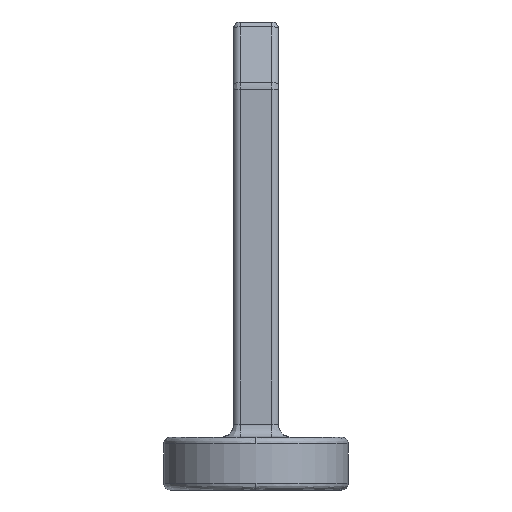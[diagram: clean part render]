
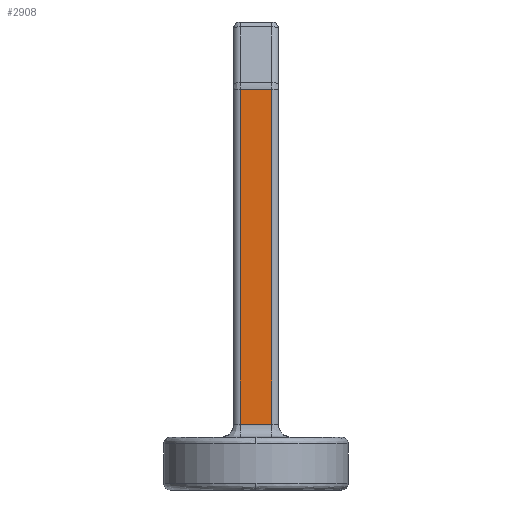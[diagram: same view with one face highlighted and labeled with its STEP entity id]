
A CAD part, left-side view. The second image highlights one B-rep face of the part: STEP entity #2908.
In plain terms, the highlighted planar face has unit normal (-1, 0, 0).
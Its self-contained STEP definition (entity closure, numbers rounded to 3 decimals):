
#61 = CARTESIAN_POINT ( 'NONE',  ( -9.2, 8.2, 30.385 ) ) ;
#113 = VERTEX_POINT ( 'NONE', #61 ) ;
#225 = DIRECTION ( 'NONE',  ( 0., 0., -1. ) ) ;
#595 = DIRECTION ( 'NONE',  ( 0., 0., 1. ) ) ;
#609 = AXIS2_PLACEMENT_3D ( 'NONE', #3986, #4444, #1716 ) ;
#861 = PLANE ( 'NONE',  #609 ) ;
#966 = EDGE_CURVE ( 'NONE', #3873, #5196, #3679, .T. ) ;
#1250 = VECTOR ( 'NONE', #595, 1000. ) ;
#1305 = EDGE_LOOP ( 'NONE', ( #3259, #5085, #4346, #2647 ) ) ;
#1323 = VECTOR ( 'NONE', #2422, 1000. ) ;
#1716 = DIRECTION ( 'NONE',  ( 0., 0., -1. ) ) ;
#2200 = EDGE_CURVE ( 'NONE', #4986, #5196, #2839, .T. ) ;
#2288 = CARTESIAN_POINT ( 'NONE',  ( -9.2, 5.3, 5. ) ) ;
#2324 = CARTESIAN_POINT ( 'NONE',  ( -9.2, 8.2, 35.5 ) ) ;
#2401 = CARTESIAN_POINT ( 'NONE',  ( -9.2, 5.3, 30.385 ) ) ;
#2422 = DIRECTION ( 'NONE',  ( 0., -1., 0. ) ) ;
#2476 = VECTOR ( 'NONE', #225, 1000. ) ;
#2519 = DIRECTION ( 'NONE',  ( 0., -1., 0. ) ) ;
#2551 = EDGE_CURVE ( 'NONE', #113, #4986, #5707, .T. ) ;
#2647 = ORIENTED_EDGE ( 'NONE', *, *, #3140, .F. ) ;
#2839 = LINE ( 'NONE', #3438, #2476 ) ;
#2908 = ADVANCED_FACE ( 'NONE', ( #4135 ), #861, .F. ) ;
#2968 = CARTESIAN_POINT ( 'NONE',  ( -9.2, 5.8, 30.385 ) ) ;
#3140 = EDGE_CURVE ( 'NONE', #3873, #113, #5581, .T. ) ;
#3177 = VECTOR ( 'NONE', #2519, 1000. ) ;
#3259 = ORIENTED_EDGE ( 'NONE', *, *, #966, .T. ) ;
#3438 = CARTESIAN_POINT ( 'NONE',  ( -9.2, 5.8, 35.5 ) ) ;
#3518 = CARTESIAN_POINT ( 'NONE',  ( -9.2, 8.2, 5. ) ) ;
#3657 = CARTESIAN_POINT ( 'NONE',  ( -9.2, 5.8, 5. ) ) ;
#3679 = LINE ( 'NONE', #2288, #3177 ) ;
#3873 = VERTEX_POINT ( 'NONE', #3518 ) ;
#3986 = CARTESIAN_POINT ( 'NONE',  ( -9.2, 5.3, 35.5 ) ) ;
#4135 = FACE_OUTER_BOUND ( 'NONE', #1305, .T. ) ;
#4346 = ORIENTED_EDGE ( 'NONE', *, *, #2551, .F. ) ;
#4444 = DIRECTION ( 'NONE',  ( 1., 0., 0. ) ) ;
#4986 = VERTEX_POINT ( 'NONE', #2968 ) ;
#5085 = ORIENTED_EDGE ( 'NONE', *, *, #2200, .F. ) ;
#5196 = VERTEX_POINT ( 'NONE', #3657 ) ;
#5581 = LINE ( 'NONE', #2324, #1250 ) ;
#5707 = LINE ( 'NONE', #2401, #1323 ) ;
